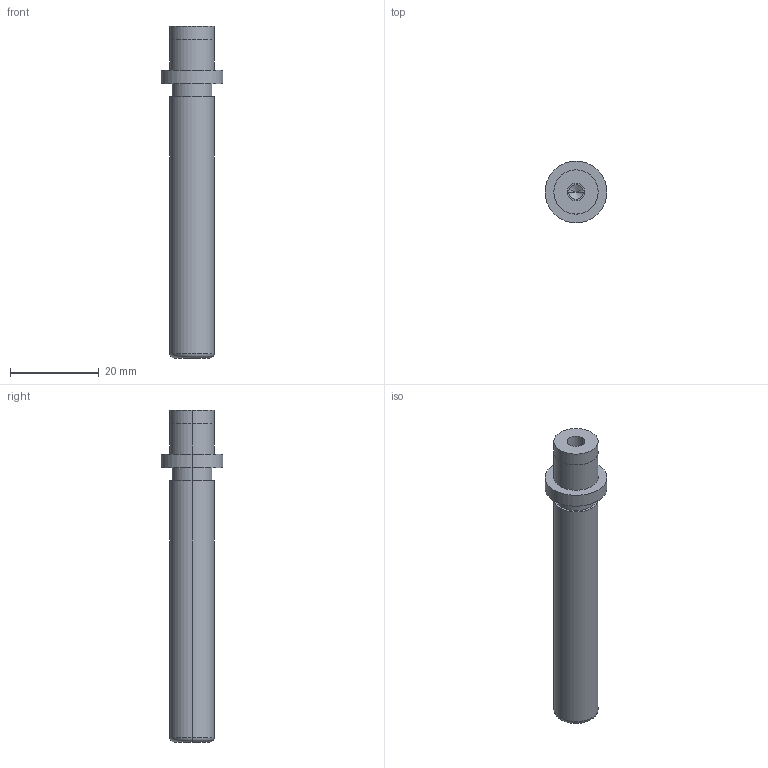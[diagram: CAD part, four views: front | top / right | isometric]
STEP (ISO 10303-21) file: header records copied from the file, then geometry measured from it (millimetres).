
FILE_DESCRIPTION(/* description */ (''),/* implementation_level */ '2;1');
FILE_NAME(/* name */ '3d_sgpw10-65_05304_r00.stp',/* time_stamp */ '2011-01-10T14:11:05+09:00',/* author */ ('MISUMI'),/* organization */ (''),/* preprocessor_version */ 'ST-DEVELOPER v11',/* originating_system */ 'UGS - NX 5.0',/* authorisation */ '');
FILE_SCHEMA (('CONFIG_CONTROL_DESIGN'));
Length unit declared in the file: millimetre
Products named in the file (1): 3d_sgpw10-65_05304_r00
Bounding box: 14 x 14 x 75 mm (x, y, z)
Volume: 5774.5 mm3; surface area: 3003.7 mm2
Topology: 1 solids, 1 shells, 31 faces, 64 edges, 38 vertices
Faces by surface type: cylinder 18, plane 7, cone 4, torus 2
Entity records: 890 total; most frequent: DIRECTION 162, CARTESIAN_POINT 130, ORIENTED_EDGE 120, AXIS2_PLACEMENT_3D 70, EDGE_CURVE 60, EDGE_LOOP 38, CIRCLE 38, VERTEX_POINT 38
